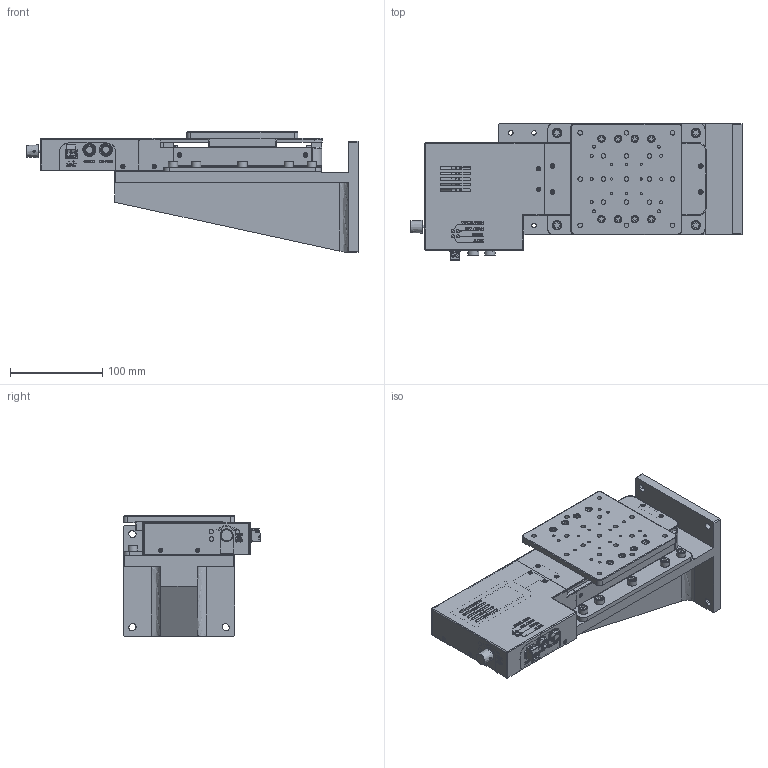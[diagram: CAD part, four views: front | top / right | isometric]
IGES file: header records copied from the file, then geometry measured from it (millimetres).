
Global section: file name: SBIS26-50Z-M6_STP; native system: Autodesk Inventor 2021; preprocessor: unknown; author: s.makino; date: 20220414.163005; units: millimetre
Bounding box: 359 x 148 x 130 mm (x, y, z)
Volume: 1549100.4 mm3; surface area: 401772.5 mm2
Topology: 10 solids, 26 shells, 4000 faces, 10730 edges, 7056 vertices
Faces by surface type: bspline 4000
